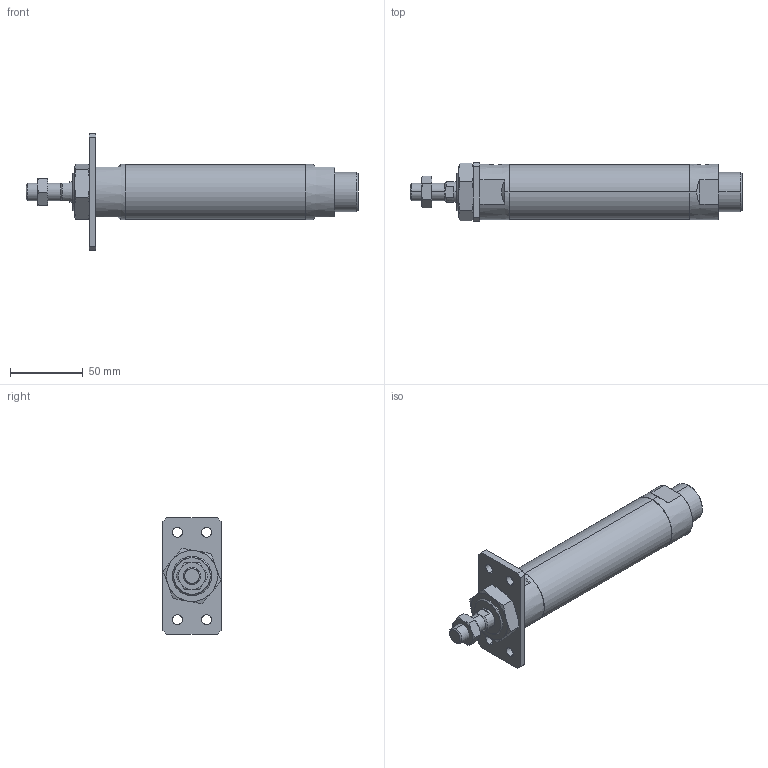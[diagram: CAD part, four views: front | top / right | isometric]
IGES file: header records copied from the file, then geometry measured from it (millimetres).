
Start section: SolidWorks IGES file using analytic representation for surfaces
Global section: file name: C:\Users\Toshiba\Desktop\J#2-32-75-A.IGS; native system: SolidWorks 2014; preprocessor: SolidWorks 2014; author: Toshiba; date: 160308.153357; units: millimetre
Bounding box: 228 x 40 x 80 mm (x, y, z)
Surface area: 37640.7 mm2 (no closed solid volume)
Topology: 0 solids, 0 shells, 114 faces, 2060 edges, 2056 vertices
Faces by surface type: bspline 67, revolution 47
